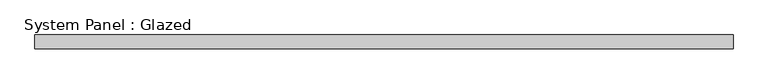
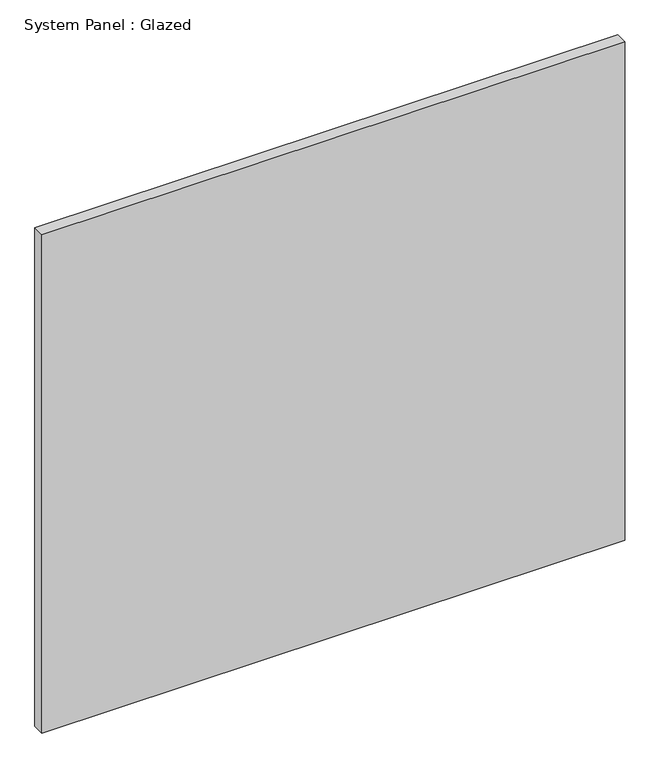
"""IFC4 building model written with IfcOpenShell, lengths in millimetres: plate geometry, System Panel : Glazed."""

from ifc_helpers import new_model, si_unit, origin, origin_with_axes, place, context, project, spatial, polyline, outline, extrude, source, transform, mapped, element, save


def system_panel_glazed_15d9a341(model_context):
    return source(origin(), model_context, "Body", "SweptSolid", [
        extrude(outline(polyline([(622.3125, 24.5), (-622.3125, 24.5), (-622.3125, 49.5), (622.3125, 49.5), (622.3125, 24.5)])), origin_with_axes(), (0.0, 0.0, 1.0), 1125.0),
    ])


if __name__ == "__main__":
    model = new_model("IFC4")
    model_context = context("Model", 3, world=origin())
    ifc_project = project(units=[si_unit("LENGTHUNIT", "METRE", prefix="MILLI")], contexts=[model_context])
    site = spatial("IfcSite", under=ifc_project)
    building = spatial("IfcBuilding", under=site)
    placement = place(None, origin())
    system_panel_glazed_shape = system_panel_glazed_15d9a341(model_context)
    element("IfcPlate", 1, ObjectType="System Panel : Glazed", at=placement, inside=building, context=model_context, shape_type="MappedRepresentation", body=[
        mapped(system_panel_glazed_shape, transform((0.0, 0.0, 0.0), x_axis=(1.0, 0.0, 0.0), y_axis=(0.0, 1.0, 0.0), z_axis=(0.0, 0.0, 1.0))),
    ])
    save(model, "model.ifc")
